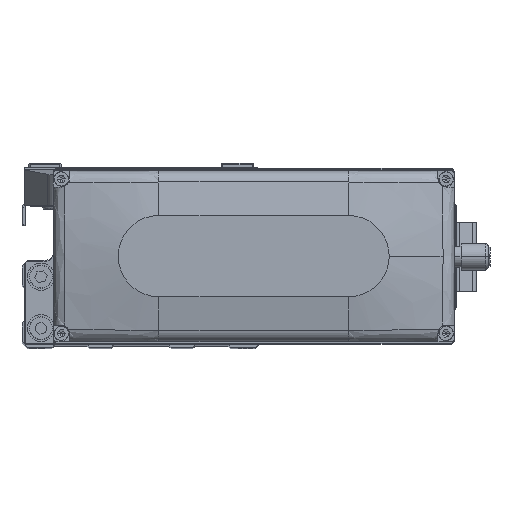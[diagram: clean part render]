
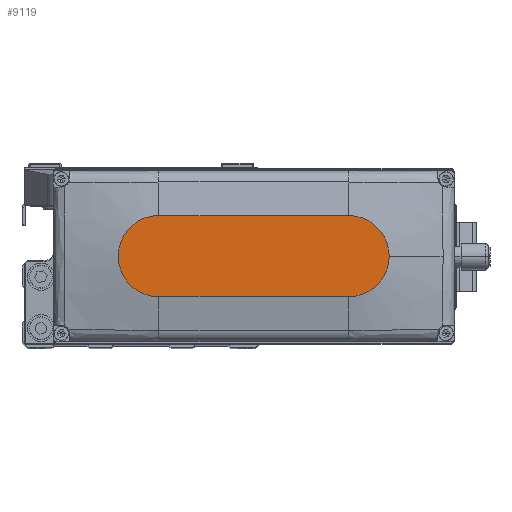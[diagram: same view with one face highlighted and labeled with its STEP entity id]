
A CAD part, top view. The second image highlights one B-rep face of the part: STEP entity #9119.
In plain terms, the highlighted planar face has unit normal (0, 0, 1).
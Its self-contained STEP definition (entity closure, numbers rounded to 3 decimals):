
#323 = CARTESIAN_POINT ( 'NONE',  ( -35., -15., 35. ) ) ;
#1843 = CARTESIAN_POINT ( 'NONE',  ( 0., 0., 35. ) ) ;
#4880 = VERTEX_POINT ( 'NONE', #323 ) ;
#5611 = ORIENTED_EDGE ( 'NONE', *, *, #37050, .T. ) ;
#5977 = EDGE_CURVE ( 'NONE', #28396, #4880, #40163, .T. ) ;
#6209 = CARTESIAN_POINT ( 'NONE',  ( -35., 0., 35. ) ) ;
#7209 = DIRECTION ( 'NONE',  ( 0., 0., 1. ) ) ;
#8386 = CIRCLE ( 'NONE', #34442, 15. ) ;
#9119 = ADVANCED_FACE ( 'NONE', ( #19549 ), #33790, .T. ) ;
#9937 = ORIENTED_EDGE ( 'NONE', *, *, #12862, .T. ) ;
#10052 = CARTESIAN_POINT ( 'NONE',  ( 35., 15., 35. ) ) ;
#10422 = ORIENTED_EDGE ( 'NONE', *, *, #5977, .T. ) ;
#10909 = CIRCLE ( 'NONE', #16839, 15. ) ;
#11378 = LINE ( 'NONE', #25571, #19056 ) ;
#11385 = CARTESIAN_POINT ( 'NONE',  ( 35., -15., 35. ) ) ;
#11411 = EDGE_LOOP ( 'NONE', ( #34318, #10422, #36498, #9937, #5611 ) ) ;
#11974 = DIRECTION ( 'NONE',  ( 0., 0., 1. ) ) ;
#12862 = EDGE_CURVE ( 'NONE', #43545, #38436, #8386, .T. ) ;
#15958 = LINE ( 'NONE', #30180, #32462 ) ;
#16041 = DIRECTION ( 'NONE',  ( 0., 0., 1. ) ) ;
#16839 = AXIS2_PLACEMENT_3D ( 'NONE', #43891, #11974, #26171 ) ;
#19056 = VECTOR ( 'NONE', #39797, 1000. ) ;
#19549 = FACE_OUTER_BOUND ( 'NONE', #11411, .T. ) ;
#20057 = AXIS2_PLACEMENT_3D ( 'NONE', #6209, #20390, #34633 ) ;
#20390 = DIRECTION ( 'NONE',  ( 0., 0., 1. ) ) ;
#21406 = DIRECTION ( 'NONE',  ( 1., 0., 0. ) ) ;
#22974 = AXIS2_PLACEMENT_3D ( 'NONE', #1843, #16041, #30271 ) ;
#25571 = CARTESIAN_POINT ( 'NONE',  ( -35., 15., 35. ) ) ;
#26171 = DIRECTION ( 'NONE',  ( 1., 0., 0. ) ) ;
#28396 = VERTEX_POINT ( 'NONE', #28543 ) ;
#28543 = CARTESIAN_POINT ( 'NONE',  ( -35., 15., 35. ) ) ;
#30180 = CARTESIAN_POINT ( 'NONE',  ( -35., -15., 35. ) ) ;
#30271 = DIRECTION ( 'NONE',  ( 1., 0., 0. ) ) ;
#32462 = VECTOR ( 'NONE', #44400, 1000. ) ;
#33790 = PLANE ( 'NONE',  #22974 ) ;
#34318 = ORIENTED_EDGE ( 'NONE', *, *, #42218, .T. ) ;
#34442 = AXIS2_PLACEMENT_3D ( 'NONE', #39116, #7209, #21406 ) ;
#34633 = DIRECTION ( 'NONE',  ( 1., 0., 0. ) ) ;
#35044 = CARTESIAN_POINT ( 'NONE',  ( 50., 0., 35. ) ) ;
#36498 = ORIENTED_EDGE ( 'NONE', *, *, #36654, .T. ) ;
#36654 = EDGE_CURVE ( 'NONE', #4880, #43545, #15958, .T. ) ;
#37050 = EDGE_CURVE ( 'NONE', #38436, #41633, #10909, .T. ) ;
#38436 = VERTEX_POINT ( 'NONE', #35044 ) ;
#39116 = CARTESIAN_POINT ( 'NONE',  ( 35., 0., 35. ) ) ;
#39797 = DIRECTION ( 'NONE',  ( -1., 0., 0. ) ) ;
#40163 = CIRCLE ( 'NONE', #20057, 15. ) ;
#41633 = VERTEX_POINT ( 'NONE', #10052 ) ;
#42218 = EDGE_CURVE ( 'NONE', #41633, #28396, #11378, .T. ) ;
#43545 = VERTEX_POINT ( 'NONE', #11385 ) ;
#43891 = CARTESIAN_POINT ( 'NONE',  ( 35., 0., 35. ) ) ;
#44400 = DIRECTION ( 'NONE',  ( 1., 0., 0. ) ) ;
